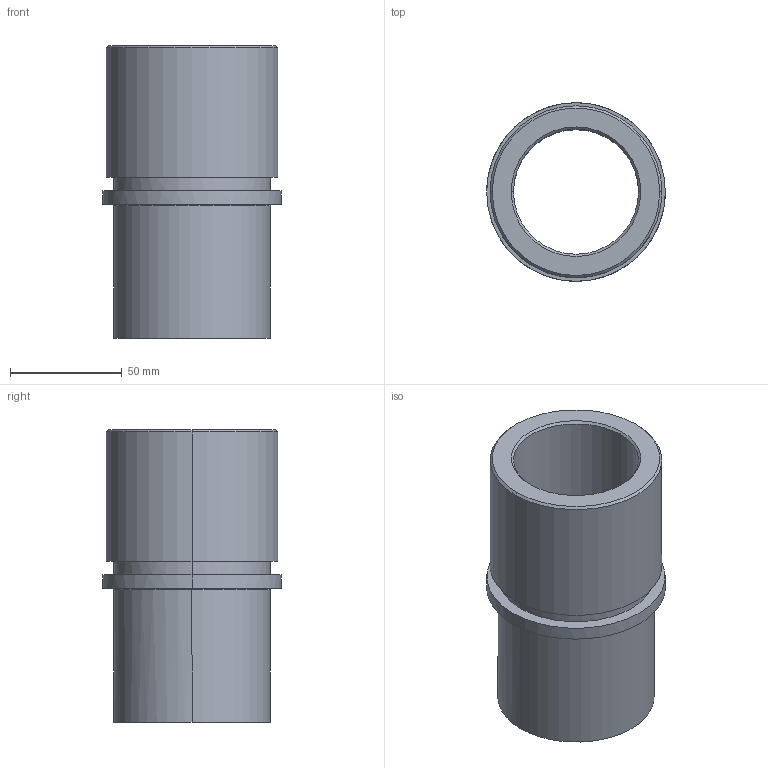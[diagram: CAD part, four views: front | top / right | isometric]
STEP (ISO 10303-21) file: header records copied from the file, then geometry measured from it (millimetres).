
FILE_DESCRIPTION(('CATIA V5 STEP Exchange'),'2;1');
FILE_NAME('C:\Users\Utente\Desktop\IO LAVORO\3D X SITO CF\X SITO\734\734-48.stp','2021-01-11T19:37:34+00:00',('none'),('none'),'CATIA Version 5 Release 20 GA (IN-10)','CATIA V5 STEP AP203','none');
FILE_SCHEMA(('CONFIG_CONTROL_DESIGN'));
Length unit declared in the file: millimetre
Products named in the file (1): 734-48
Assembly tree (1 placements, depth 2):
  734-48
    #58
Bounding box: 80 x 80 x 131 mm (x, y, z)
Volume: 235759.8 mm3; surface area: 60092.5 mm2
Topology: 1 solids, 1 shells, 25 faces, 50 edges, 30 vertices
Faces by surface type: cylinder 10, cone 6, plane 5, torus 4
Entity records: 851 total; most frequent: CARTESIAN_POINT 282, ORIENTED_EDGE 100, DIRECTION 96, AXIS2_PLACEMENT_3D 53, EDGE_CURVE 50, EDGE_LOOP 30, VERTEX_POINT 30, CIRCLE 26
